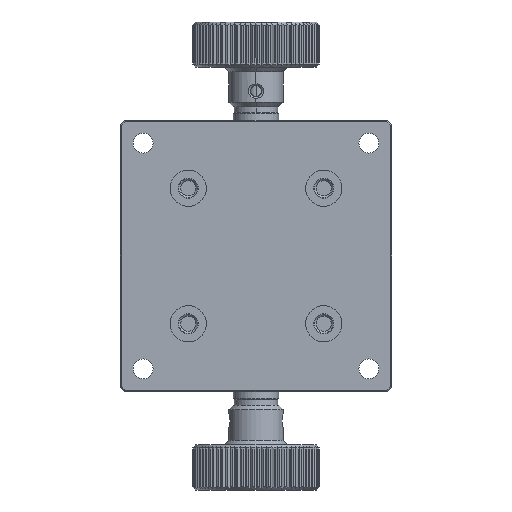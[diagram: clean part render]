
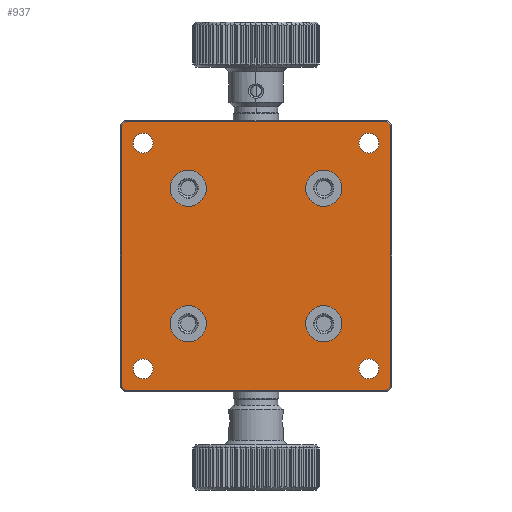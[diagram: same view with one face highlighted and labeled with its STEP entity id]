
A CAD part, front view. The second image highlights one B-rep face of the part: STEP entity #937.
In plain terms, the highlighted planar face has unit normal (0, -1, 0).
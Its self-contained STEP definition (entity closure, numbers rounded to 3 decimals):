
#2=CARTESIAN_POINT('',(-25.,0.,-25.));
#3=DIRECTION('',(0.,1.,0.));
#4=DIRECTION('',(1.,0.,0.));
#5=AXIS2_PLACEMENT_3D('',#2,#3,#4);
#7=CARTESIAN_POINT('',(-25.,0.,-25.));
#8=DIRECTION('',(0.,1.,0.));
#9=DIRECTION('',(-1.,0.,0.));
#10=AXIS2_PLACEMENT_3D('',#7,#8,#9);
#12=CARTESIAN_POINT('',(25.,0.,-25.));
#13=DIRECTION('',(0.,1.,0.));
#14=DIRECTION('',(1.,0.,0.));
#15=AXIS2_PLACEMENT_3D('',#12,#13,#14);
#17=CARTESIAN_POINT('',(25.,0.,-25.));
#18=DIRECTION('',(0.,1.,0.));
#19=DIRECTION('',(-1.,0.,0.));
#20=AXIS2_PLACEMENT_3D('',#17,#18,#19);
#22=CARTESIAN_POINT('',(-25.,0.,25.));
#23=DIRECTION('',(0.,1.,0.));
#24=DIRECTION('',(1.,0.,0.));
#25=AXIS2_PLACEMENT_3D('',#22,#23,#24);
#27=CARTESIAN_POINT('',(-25.,0.,25.));
#28=DIRECTION('',(0.,1.,0.));
#29=DIRECTION('',(-1.,0.,0.));
#30=AXIS2_PLACEMENT_3D('',#27,#28,#29);
#32=CARTESIAN_POINT('',(25.,0.,25.));
#33=DIRECTION('',(0.,1.,0.));
#34=DIRECTION('',(1.,0.,0.));
#35=AXIS2_PLACEMENT_3D('',#32,#33,#34);
#37=CARTESIAN_POINT('',(25.,0.,25.));
#38=DIRECTION('',(0.,1.,0.));
#39=DIRECTION('',(-1.,0.,0.));
#40=AXIS2_PLACEMENT_3D('',#37,#38,#39);
#42=CARTESIAN_POINT('',(15.,0.,-15.));
#43=DIRECTION('',(0.,-1.,0.));
#44=DIRECTION('',(-1.,0.,0.));
#45=AXIS2_PLACEMENT_3D('',#42,#43,#44);
#47=CARTESIAN_POINT('',(15.,0.,-15.));
#48=DIRECTION('',(0.,-1.,0.));
#49=DIRECTION('',(1.,0.,0.));
#50=AXIS2_PLACEMENT_3D('',#47,#48,#49);
#52=CARTESIAN_POINT('',(-15.,0.,-15.));
#53=DIRECTION('',(0.,-1.,0.));
#54=DIRECTION('',(-1.,0.,0.));
#55=AXIS2_PLACEMENT_3D('',#52,#53,#54);
#57=CARTESIAN_POINT('',(-15.,0.,-15.));
#58=DIRECTION('',(0.,-1.,0.));
#59=DIRECTION('',(1.,0.,0.));
#60=AXIS2_PLACEMENT_3D('',#57,#58,#59);
#62=CARTESIAN_POINT('',(15.,0.,15.));
#63=DIRECTION('',(0.,-1.,0.));
#64=DIRECTION('',(-1.,0.,0.));
#65=AXIS2_PLACEMENT_3D('',#62,#63,#64);
#67=CARTESIAN_POINT('',(15.,0.,15.));
#68=DIRECTION('',(0.,-1.,0.));
#69=DIRECTION('',(1.,0.,0.));
#70=AXIS2_PLACEMENT_3D('',#67,#68,#69);
#72=CARTESIAN_POINT('',(-15.,0.,15.));
#73=DIRECTION('',(0.,-1.,0.));
#74=DIRECTION('',(-1.,0.,0.));
#75=AXIS2_PLACEMENT_3D('',#72,#73,#74);
#77=CARTESIAN_POINT('',(-15.,0.,15.));
#78=DIRECTION('',(0.,-1.,0.));
#79=DIRECTION('',(1.,0.,0.));
#80=AXIS2_PLACEMENT_3D('',#77,#78,#79);
#82=DIRECTION('',(-0.707,0.,-0.707));
#83=VECTOR('',#82,1.249);
#84=CARTESIAN_POINT('',(-28.917,0.,29.8));
#85=LINE('',#84,#83);
#86=DIRECTION('',(-1.,0.,0.));
#87=VECTOR('',#86,57.834);
#88=CARTESIAN_POINT('',(28.917,0.,29.8));
#89=LINE('',#88,#87);
#90=DIRECTION('',(-0.707,0.,0.707));
#91=VECTOR('',#90,1.249);
#92=CARTESIAN_POINT('',(29.8,0.,28.917));
#93=LINE('',#92,#91);
#94=DIRECTION('',(0.,0.,1.));
#95=VECTOR('',#94,57.834);
#96=CARTESIAN_POINT('',(29.8,0.,-28.917));
#97=LINE('',#96,#95);
#98=DIRECTION('',(0.707,0.,0.707));
#99=VECTOR('',#98,1.249);
#100=CARTESIAN_POINT('',(28.917,0.,-29.8));
#101=LINE('',#100,#99);
#102=DIRECTION('',(1.,0.,0.));
#103=VECTOR('',#102,57.834);
#104=CARTESIAN_POINT('',(-28.917,0.,-29.8));
#105=LINE('',#104,#103);
#106=DIRECTION('',(0.707,0.,-0.707));
#107=VECTOR('',#106,1.249);
#108=CARTESIAN_POINT('',(-29.8,0.,-28.917));
#109=LINE('',#108,#107);
#110=DIRECTION('',(0.,0.,-1.));
#111=VECTOR('',#110,57.834);
#112=CARTESIAN_POINT('',(-29.8,0.,28.917));
#113=LINE('',#112,#111);
#706=CARTESIAN_POINT('',(-22.8,0.,-25.));
#707=CARTESIAN_POINT('',(-27.2,0.,-25.));
#708=VERTEX_POINT('',#706);
#709=VERTEX_POINT('',#707);
#710=CARTESIAN_POINT('',(27.2,0.,-25.));
#711=CARTESIAN_POINT('',(22.8,0.,-25.));
#712=VERTEX_POINT('',#710);
#713=VERTEX_POINT('',#711);
#714=CARTESIAN_POINT('',(-22.8,0.,25.));
#715=CARTESIAN_POINT('',(-27.2,0.,25.));
#716=VERTEX_POINT('',#714);
#717=VERTEX_POINT('',#715);
#718=CARTESIAN_POINT('',(27.2,0.,25.));
#719=CARTESIAN_POINT('',(22.8,0.,25.));
#720=VERTEX_POINT('',#718);
#721=VERTEX_POINT('',#719);
#786=CARTESIAN_POINT('',(-28.917,0.,29.8));
#787=CARTESIAN_POINT('',(-29.8,0.,28.917));
#788=VERTEX_POINT('',#786);
#789=VERTEX_POINT('',#787);
#790=CARTESIAN_POINT('',(-29.8,0.,-28.917));
#791=VERTEX_POINT('',#790);
#792=CARTESIAN_POINT('',(-28.917,0.,-29.8));
#793=VERTEX_POINT('',#792);
#794=CARTESIAN_POINT('',(28.917,0.,-29.8));
#795=VERTEX_POINT('',#794);
#796=CARTESIAN_POINT('',(29.8,0.,-28.917));
#797=VERTEX_POINT('',#796);
#798=CARTESIAN_POINT('',(29.8,0.,28.917));
#799=VERTEX_POINT('',#798);
#800=CARTESIAN_POINT('',(28.917,0.,29.8));
#801=VERTEX_POINT('',#800);
#834=CARTESIAN_POINT('',(11.,0.,-15.));
#835=CARTESIAN_POINT('',(19.,0.,-15.));
#836=VERTEX_POINT('',#834);
#837=VERTEX_POINT('',#835);
#838=CARTESIAN_POINT('',(-19.,0.,-15.));
#839=CARTESIAN_POINT('',(-11.,0.,-15.));
#840=VERTEX_POINT('',#838);
#841=VERTEX_POINT('',#839);
#842=CARTESIAN_POINT('',(11.,0.,15.));
#843=CARTESIAN_POINT('',(19.,0.,15.));
#844=VERTEX_POINT('',#842);
#845=VERTEX_POINT('',#843);
#846=CARTESIAN_POINT('',(-19.,0.,15.));
#847=CARTESIAN_POINT('',(-11.,0.,15.));
#848=VERTEX_POINT('',#846);
#849=VERTEX_POINT('',#847);
#866=CARTESIAN_POINT('',(0.,0.,0.));
#867=DIRECTION('',(0.,1.,0.));
#868=DIRECTION('',(1.,0.,0.));
#869=AXIS2_PLACEMENT_3D('',#866,#867,#868);
#870=PLANE('',#869);
#872=ORIENTED_EDGE('',*,*,#871,.F.);
#874=ORIENTED_EDGE('',*,*,#873,.F.);
#876=ORIENTED_EDGE('',*,*,#875,.F.);
#878=ORIENTED_EDGE('',*,*,#877,.F.);
#880=ORIENTED_EDGE('',*,*,#879,.F.);
#882=ORIENTED_EDGE('',*,*,#881,.F.);
#884=ORIENTED_EDGE('',*,*,#883,.F.);
#886=ORIENTED_EDGE('',*,*,#885,.F.);
#887=EDGE_LOOP('',(#872,#874,#876,#878,#880,#882,#884,#886));
#888=FACE_OUTER_BOUND('',#887,.F.);
#890=ORIENTED_EDGE('',*,*,#889,.F.);
#892=ORIENTED_EDGE('',*,*,#891,.F.);
#893=EDGE_LOOP('',(#890,#892));
#894=FACE_BOUND('',#893,.F.);
#896=ORIENTED_EDGE('',*,*,#895,.F.);
#898=ORIENTED_EDGE('',*,*,#897,.F.);
#899=EDGE_LOOP('',(#896,#898));
#900=FACE_BOUND('',#899,.F.);
#902=ORIENTED_EDGE('',*,*,#901,.F.);
#904=ORIENTED_EDGE('',*,*,#903,.F.);
#905=EDGE_LOOP('',(#902,#904));
#906=FACE_BOUND('',#905,.F.);
#908=ORIENTED_EDGE('',*,*,#907,.T.);
#910=ORIENTED_EDGE('',*,*,#909,.T.);
#911=EDGE_LOOP('',(#908,#910));
#912=FACE_BOUND('',#911,.F.);
#914=ORIENTED_EDGE('',*,*,#913,.T.);
#916=ORIENTED_EDGE('',*,*,#915,.T.);
#917=EDGE_LOOP('',(#914,#916));
#918=FACE_BOUND('',#917,.F.);
#920=ORIENTED_EDGE('',*,*,#919,.T.);
#922=ORIENTED_EDGE('',*,*,#921,.T.);
#923=EDGE_LOOP('',(#920,#922));
#924=FACE_BOUND('',#923,.F.);
#926=ORIENTED_EDGE('',*,*,#925,.T.);
#928=ORIENTED_EDGE('',*,*,#927,.T.);
#929=EDGE_LOOP('',(#926,#928));
#930=FACE_BOUND('',#929,.F.);
#932=ORIENTED_EDGE('',*,*,#931,.F.);
#934=ORIENTED_EDGE('',*,*,#933,.F.);
#935=EDGE_LOOP('',(#932,#934));
#936=FACE_BOUND('',#935,.F.);
#937=ADVANCED_FACE('',(#888,#894,#900,#906,#912,#918,#924,#930,#936),#870,.F.);
#6=CIRCLE('',#5,2.2);
#11=CIRCLE('',#10,2.2);
#16=CIRCLE('',#15,2.2);
#21=CIRCLE('',#20,2.2);
#26=CIRCLE('',#25,2.2);
#31=CIRCLE('',#30,2.2);
#36=CIRCLE('',#35,2.2);
#41=CIRCLE('',#40,2.2);
#46=CIRCLE('',#45,4.);
#51=CIRCLE('',#50,4.);
#56=CIRCLE('',#55,4.);
#61=CIRCLE('',#60,4.);
#66=CIRCLE('',#65,4.);
#71=CIRCLE('',#70,4.);
#76=CIRCLE('',#75,4.);
#81=CIRCLE('',#80,4.);
#871=EDGE_CURVE('',#788,#789,#85,.T.);
#873=EDGE_CURVE('',#801,#788,#89,.T.);
#875=EDGE_CURVE('',#799,#801,#93,.T.);
#877=EDGE_CURVE('',#797,#799,#97,.T.);
#879=EDGE_CURVE('',#795,#797,#101,.T.);
#881=EDGE_CURVE('',#793,#795,#105,.T.);
#883=EDGE_CURVE('',#791,#793,#109,.T.);
#885=EDGE_CURVE('',#789,#791,#113,.T.);
#889=EDGE_CURVE('',#712,#713,#16,.T.);
#891=EDGE_CURVE('',#713,#712,#21,.T.);
#895=EDGE_CURVE('',#716,#717,#26,.T.);
#897=EDGE_CURVE('',#717,#716,#31,.T.);
#901=EDGE_CURVE('',#720,#721,#36,.T.);
#903=EDGE_CURVE('',#721,#720,#41,.T.);
#907=EDGE_CURVE('',#836,#837,#46,.T.);
#909=EDGE_CURVE('',#837,#836,#51,.T.);
#913=EDGE_CURVE('',#840,#841,#56,.T.);
#915=EDGE_CURVE('',#841,#840,#61,.T.);
#919=EDGE_CURVE('',#844,#845,#66,.T.);
#921=EDGE_CURVE('',#845,#844,#71,.T.);
#925=EDGE_CURVE('',#848,#849,#76,.T.);
#927=EDGE_CURVE('',#849,#848,#81,.T.);
#931=EDGE_CURVE('',#708,#709,#6,.T.);
#933=EDGE_CURVE('',#709,#708,#11,.T.);
